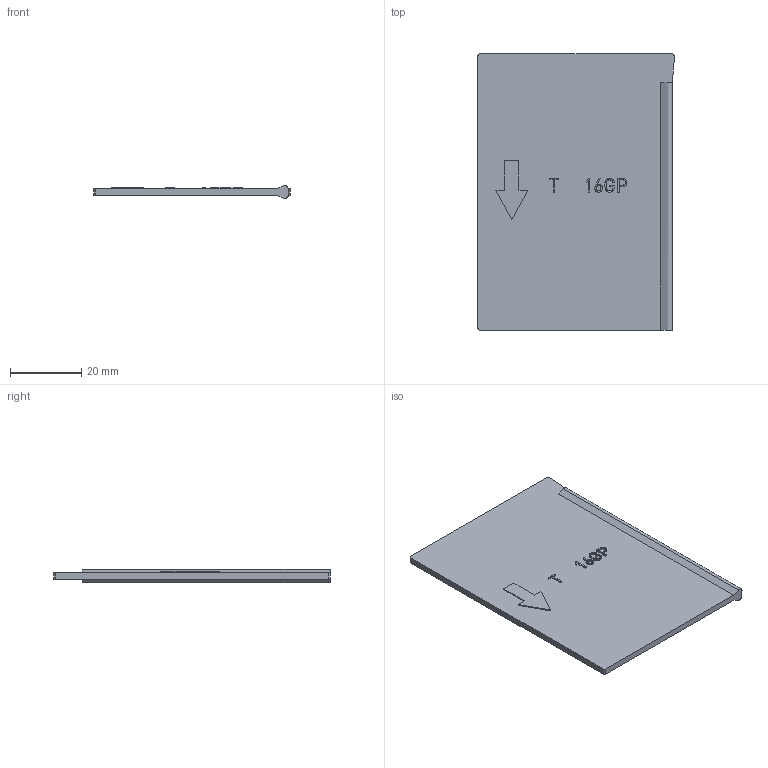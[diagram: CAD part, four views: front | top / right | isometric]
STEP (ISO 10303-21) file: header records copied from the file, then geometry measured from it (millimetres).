
FILE_DESCRIPTION((''),'2;1');
FILE_NAME('U1_INTERPOLE_BARRIER','2018-06-04T',('HHI'),(''),'PRO/ENGINEER BY PARAMETRIC TECHNOLOGY CORPORATION, 2012453','PRO/ENGINEER BY PARAMETRIC TECHNOLOGY CORPORATION, 2012453','');
FILE_SCHEMA(('CONFIG_CONTROL_DESIGN'));
Length unit declared in the file: millimetre
Products named in the file (1): U1_INTERPOLE_BARRIER
Bounding box: 55 x 77.5 x 3.66 mm (x, y, z)
Volume: 7889.7 mm3; surface area: 9082 mm2
Topology: 1 solids, 1 shells, 83 faces, 215 edges, 142 vertices
Faces by surface type: plane 42, extrusion 33, cylinder 8
Entity records: 4836 total; most frequent: CARTESIAN_POINT 2883, ORIENTED_EDGE 430, DIRECTION 294, EDGE_CURVE 215, VECTOR 166, VERTEX_POINT 142, LINE 133, B_SPLINE_CURVE_WITH_KNOTS 101
